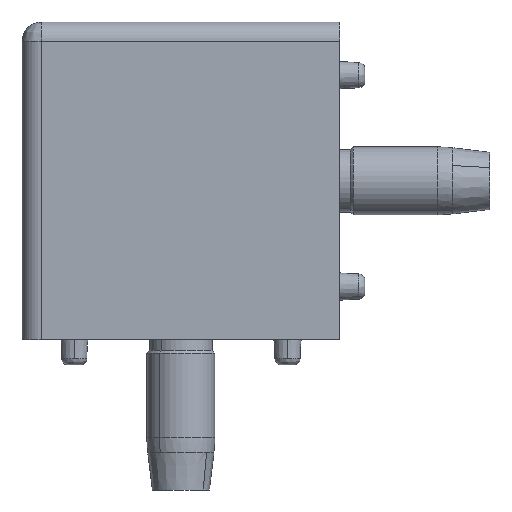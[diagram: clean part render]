
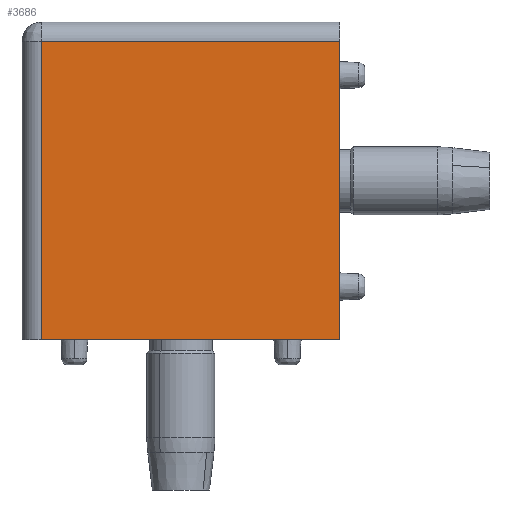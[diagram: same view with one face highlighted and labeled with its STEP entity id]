
A CAD part, front view. The second image highlights one B-rep face of the part: STEP entity #3686.
In plain terms, the highlighted planar face has unit normal (0, -1, 0).
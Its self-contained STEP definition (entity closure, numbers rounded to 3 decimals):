
#11 = DIRECTION ( 'NONE',  ( 0., 0., 1. ) ) ;
#396 = AXIS2_PLACEMENT_3D ( 'NONE', #1912, #1934, #2464 ) ;
#497 = EDGE_LOOP ( 'NONE', ( #3772, #1436, #6609, #2267 ) ) ;
#578 = CARTESIAN_POINT ( 'NONE',  ( -23.5, -25., 22. ) ) ;
#799 = EDGE_CURVE ( 'NONE', #1710, #1031, #1407, .T. ) ;
#820 = CARTESIAN_POINT ( 'NONE',  ( -47., -25., -25. ) ) ;
#901 = CARTESIAN_POINT ( 'NONE',  ( 0., -25., -25. ) ) ;
#903 = VECTOR ( 'NONE', #6115, 1000. ) ;
#1031 = VERTEX_POINT ( 'NONE', #1238 ) ;
#1238 = CARTESIAN_POINT ( 'NONE',  ( 0., -25., 22. ) ) ;
#1306 = LINE ( 'NONE', #2671, #1472 ) ;
#1407 = LINE ( 'NONE', #4475, #903 ) ;
#1436 = ORIENTED_EDGE ( 'NONE', *, *, #799, .T. ) ;
#1472 = VECTOR ( 'NONE', #5254, 1000. ) ;
#1594 = CARTESIAN_POINT ( 'NONE',  ( -47., -25., 22. ) ) ;
#1710 = VERTEX_POINT ( 'NONE', #901 ) ;
#1769 = VERTEX_POINT ( 'NONE', #1594 ) ;
#1912 = CARTESIAN_POINT ( 'NONE',  ( -23.5, -25., 0. ) ) ;
#1934 = DIRECTION ( 'NONE',  ( 0., 1., 0. ) ) ;
#2267 = ORIENTED_EDGE ( 'NONE', *, *, #3897, .F. ) ;
#2349 = VERTEX_POINT ( 'NONE', #820 ) ;
#2464 = DIRECTION ( 'NONE',  ( 0., 0., 1. ) ) ;
#2573 = EDGE_CURVE ( 'NONE', #2349, #1710, #1306, .T. ) ;
#2671 = CARTESIAN_POINT ( 'NONE',  ( -23.5, -25., -25. ) ) ;
#3164 = LINE ( 'NONE', #5289, #3892 ) ;
#3686 = ADVANCED_FACE ( 'NONE', ( #4685 ), #5010, .F. ) ;
#3772 = ORIENTED_EDGE ( 'NONE', *, *, #2573, .T. ) ;
#3848 = EDGE_CURVE ( 'NONE', #1769, #1031, #6531, .T. ) ;
#3892 = VECTOR ( 'NONE', #11, 1000. ) ;
#3897 = EDGE_CURVE ( 'NONE', #2349, #1769, #3164, .T. ) ;
#4475 = CARTESIAN_POINT ( 'NONE',  ( 0., -25., 0. ) ) ;
#4685 = FACE_OUTER_BOUND ( 'NONE', #497, .T. ) ;
#5010 = PLANE ( 'NONE',  #396 ) ;
#5254 = DIRECTION ( 'NONE',  ( 1., 0., 0. ) ) ;
#5289 = CARTESIAN_POINT ( 'NONE',  ( -47., -25., 25. ) ) ;
#5334 = DIRECTION ( 'NONE',  ( 1., 0., 0. ) ) ;
#5953 = VECTOR ( 'NONE', #5334, 1000. ) ;
#6115 = DIRECTION ( 'NONE',  ( 0., 0., 1. ) ) ;
#6531 = LINE ( 'NONE', #578, #5953 ) ;
#6609 = ORIENTED_EDGE ( 'NONE', *, *, #3848, .F. ) ;
